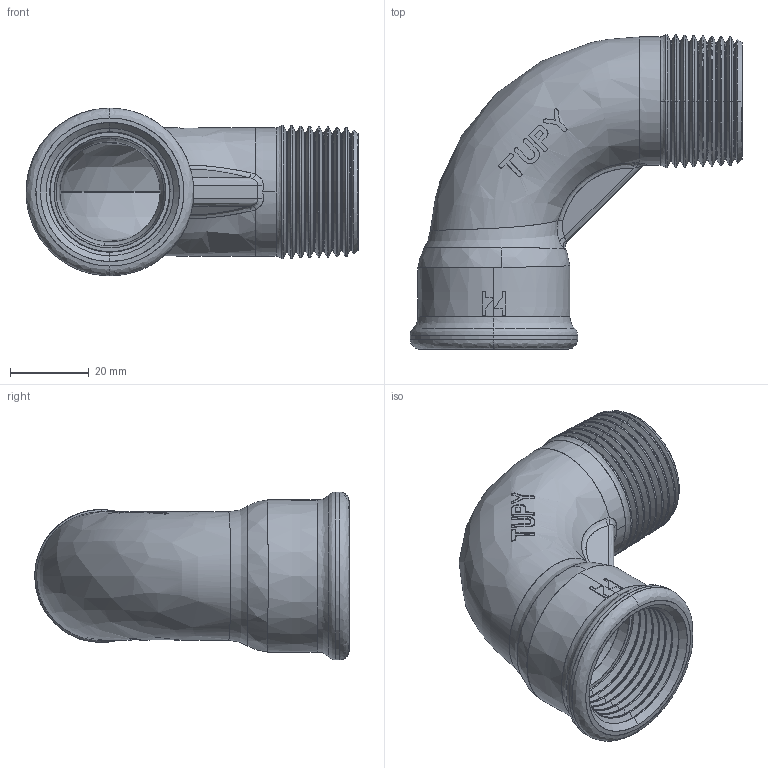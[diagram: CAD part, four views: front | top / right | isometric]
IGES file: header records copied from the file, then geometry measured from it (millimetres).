
Start section: SolidWorks IGES file using analytic representation for surfaces
Global section: file name: C:\Users\Joel Rosa\Desktop\Tubulação\12-22\12-22-007.IGS; native system: SolidWorks 2011; preprocessor: SolidWorks 2011; author: Joel Rosa; date: 131007.220227; units: millimetre
Bounding box: 84.3 x 79.89 x 42.6 mm (x, y, z)
Surface area: 24719.3 mm2 (no closed solid volume)
Topology: 0 solids, 0 shells, 296 faces, 2613 edges, 2613 vertices
Faces by surface type: bspline 211, revolution 85
